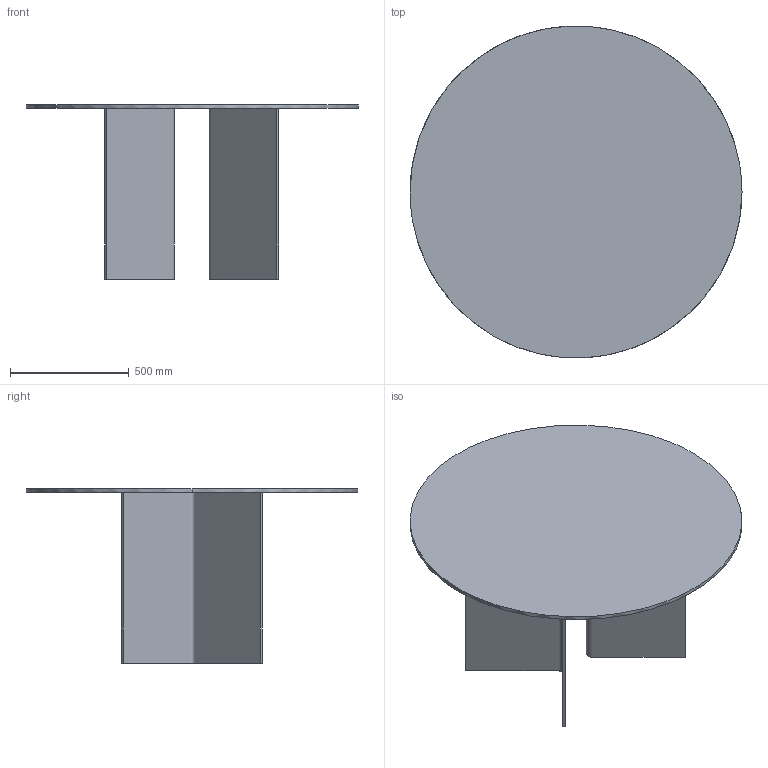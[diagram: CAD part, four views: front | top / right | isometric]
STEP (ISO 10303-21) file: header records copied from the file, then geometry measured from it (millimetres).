
FILE_DESCRIPTION(/* description */ (''),/* implementation_level */ '2;1');
FILE_NAME(/* name */ '216642 - corner d140',/* time_stamp */ '2014-07-31T16:12:15+02:00',/* author */ (''),/* organization */ (''),/* preprocessor_version */ 'ST-DEVELOPER v10',/* originating_system */ '',/* authorisation */ '');
FILE_SCHEMA (('CONFIG_CONTROL_DESIGN'));
Length unit declared in the file: millimetre
Products named in the file (1): 1
Bounding box: 1400 x 1398.77 x 735 mm (x, y, z)
Volume: 38184603.6 mm3; surface area: 5581316.4 mm2
Topology: 3 solids, 3 shells, 18 faces, 36 edges, 24 vertices
Faces by surface type: plane 12, bspline 6
Entity records: 564 total; most frequent: CARTESIAN_POINT 222, ORIENTED_EDGE 72, EDGE_CURVE 36, VERTEX_POINT 24, B_SPLINE_CURVE_WITH_KNOTS 24, ADVANCED_FACE 18, FACE_OUTER_BOUND 18, EDGE_LOOP 18
